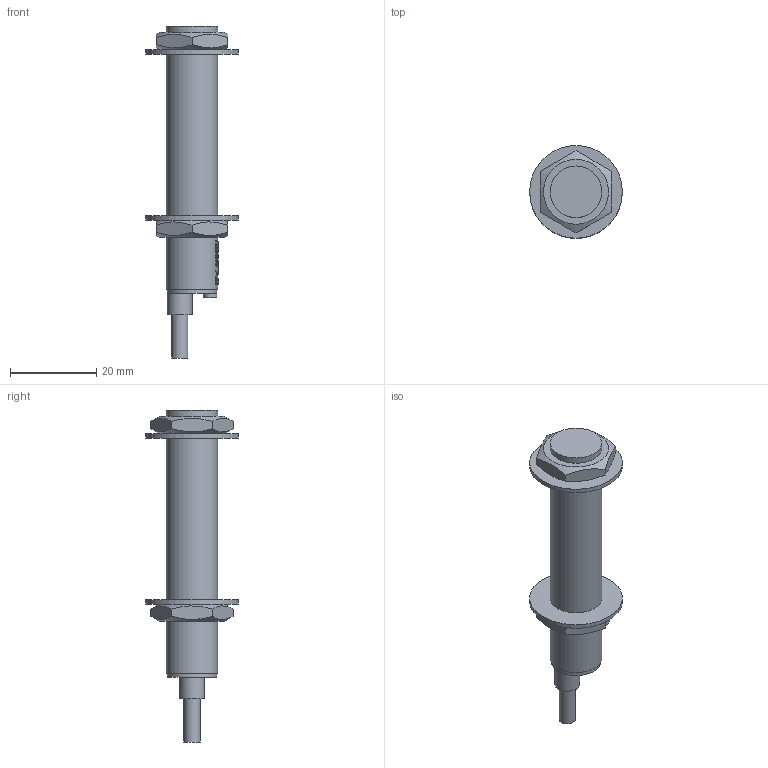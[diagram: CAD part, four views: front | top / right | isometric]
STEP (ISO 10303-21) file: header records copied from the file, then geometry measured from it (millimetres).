
FILE_DESCRIPTION(/* description */ ('D290-00326','CAx-IF Rec.Pracs.---Representation and Presentation of Product Manufacturing Information (PMI)---4.0---2014-10-13'),/* implementation_level */ '2;1');
FILE_NAME(/* name */ '',/* time_stamp */ '2026-04-16T23:14:11+03:00',/* author */ ('DN.RU'),/* organization */ (''),/* preprocessor_version */ 'ST-DEVELOPER v20',/* originating_system */ 'Autodesk Inventor 2025',/* authorisation */ '');
FILE_SCHEMA (('AP242_MANAGED_MODEL_BASED_3D_ENGINEERING_MIM_LF { 1 0 10303 442 1 1 4 }'));
Length unit declared in the file: millimetre
Products named in the file (1): LJ12A3-4-J/EZ
Bounding box: 21.5 x 21.5 x 77 mm (x, y, z)
Volume: 8646.7 mm3; surface area: 4119.4 mm2
Topology: 1 solids, 1 shells, 215 faces, 556 edges, 368 vertices
Faces by surface type: plane 98, bspline 87, cylinder 26, cone 4
Full cylindrical faces by diameter (mm): 3.118 x1, 3.75 x1, 5.75 x1, 11.5 x1, 12 x3, 21.5 x2
Entity records: 9588 total; most frequent: CARTESIAN_POINT 4313, ORIENTED_EDGE 1112, DIRECTION 766, EDGE_CURVE 556, VERTEX_POINT 368, STYLED_ITEM 293, LINE 260, VECTOR 260
